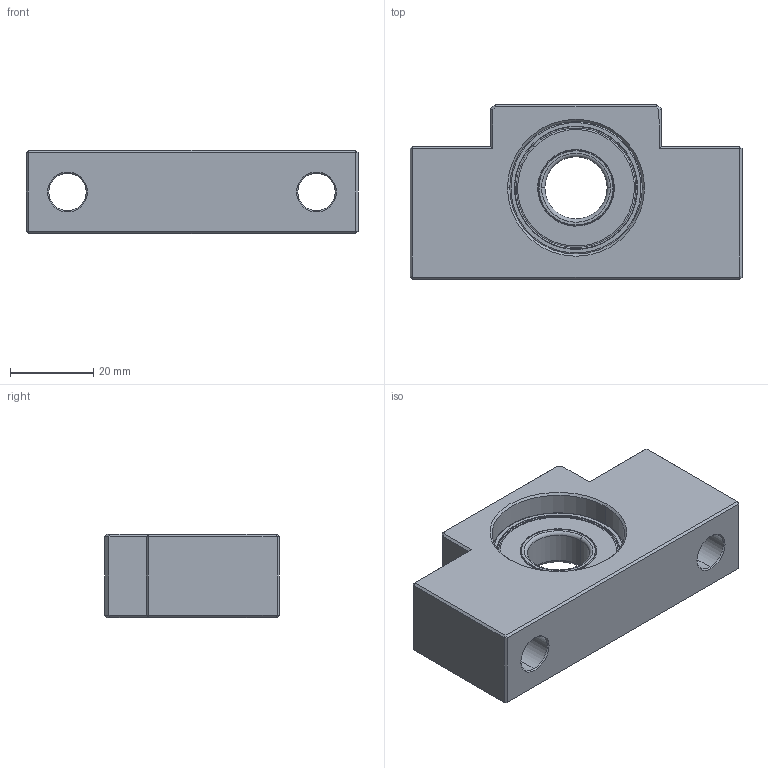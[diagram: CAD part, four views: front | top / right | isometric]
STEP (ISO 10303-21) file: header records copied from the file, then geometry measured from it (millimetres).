
FILE_DESCRIPTION (( 'STEP AP203' ), '1' );
FILE_NAME ('LF15.STEP', '2014-05-08T07:21:55', ( '' ), ( '' ), 'SwSTEP 2.0', 'SolidWorks 2014', '' );
FILE_SCHEMA (( 'CONFIG_CONTROL_DESIGN' ));
Length unit declared in the file: millimetre
Products named in the file (1): LF15
Bounding box: 80 x 42 x 20 mm (x, y, z)
Volume: 40535 mm3; surface area: 19304.7 mm2
Topology: 13 solids, 13 shells, 267 faces, 643 edges, 393 vertices
Faces by surface type: plane 108, torus 66, cylinder 63, cone 16, sphere 14
Entity records: 8081 total; most frequent: CARTESIAN_POINT 1926, DIRECTION 1358, ORIENTED_EDGE 1216, EDGE_CURVE 608, AXIS2_PLACEMENT_3D 552, VERTEX_POINT 372, EDGE_LOOP 288, CIRCLE 284
